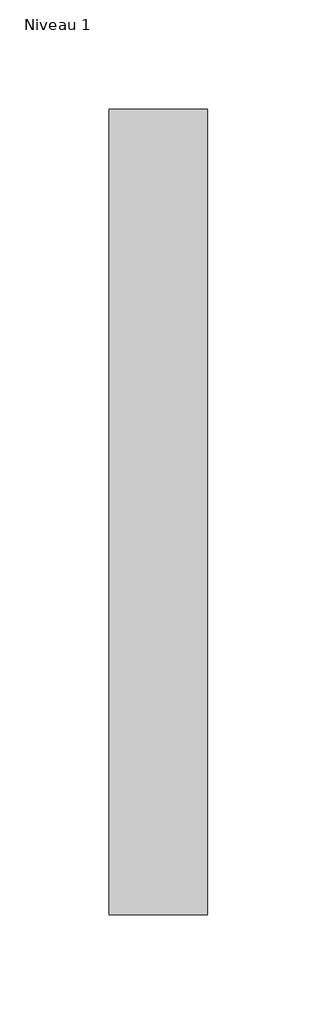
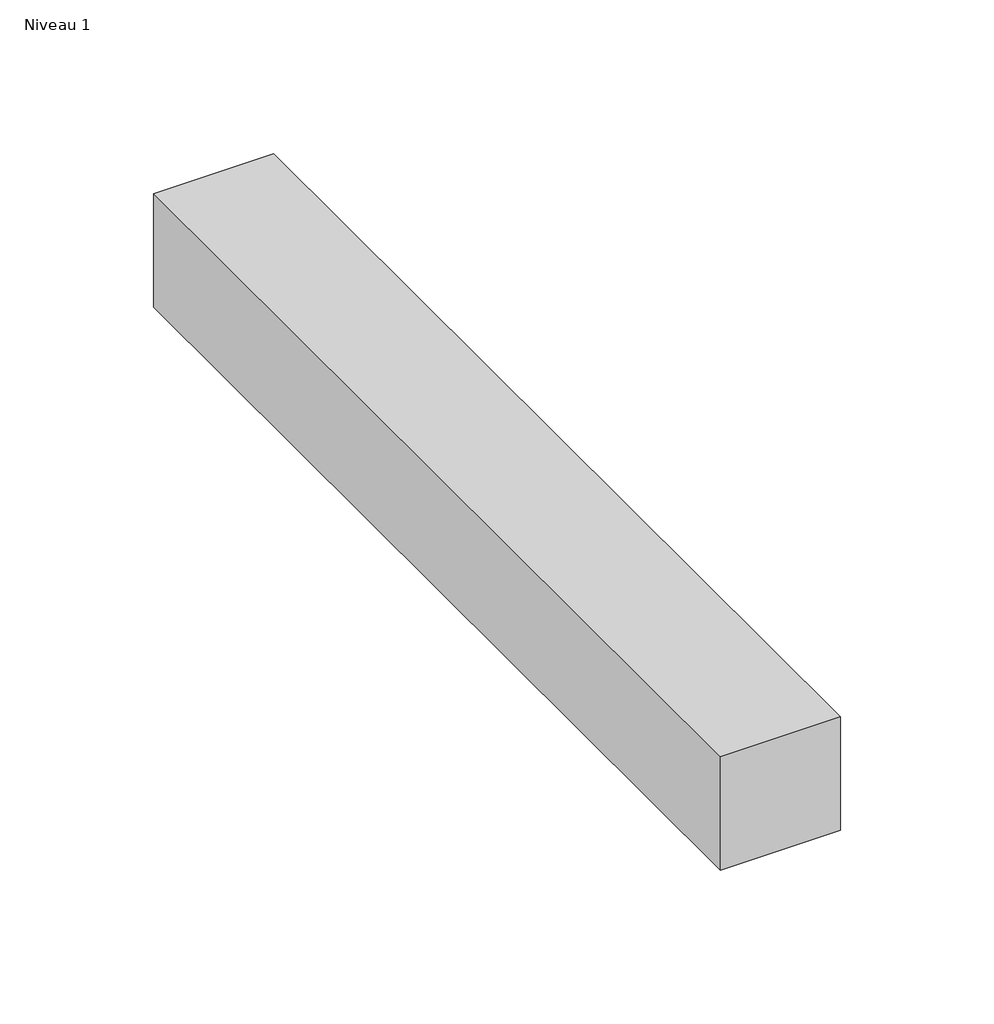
# One storey: 1 beam.
"""IFC4 building model written with IfcOpenShell, lengths in millimetres."""

from ifc_helpers import new_model, si_unit, origin, place, context, project, spatial, transform, mapped, element, save
from components import beam_45x45_cf2d80d3

model = new_model("IFC4")

# Units and contexts
model_context = context("Model", 3, world=origin())
ifc_project = project(units=[si_unit("LENGTHUNIT", "METRE", prefix="MILLI")], contexts=[model_context])

# Site, building, storey
site = spatial("IfcSite", under=ifc_project)
building = spatial("IfcBuilding", under=site)
storey = spatial("IfcBuildingStorey", under=building, Name="Niveau 1", Elevation=3000.0)

# Beam
placement = place(None, origin())
beam_45x45_shape = beam_45x45_cf2d80d3(model_context)
element("IfcBeam", 1, ObjectType="Poutre - Bois d'oeuvre : 45x45", at=placement, inside=storey, context=model_context, shape_type="MappedRepresentation", body=[
    mapped(beam_45x45_shape, transform((-5915.0543614, -1088.2584766, 1857.5), x_axis=(0.0, -1.0, 0.0), y_axis=(1.0, 0.0, 0.0), z_axis=(0.0, 0.0, 1.0))),
])

save(model, "model.ifc")
